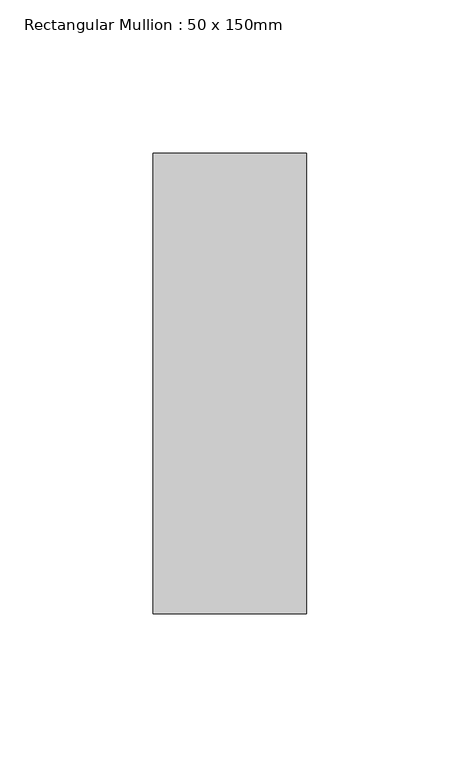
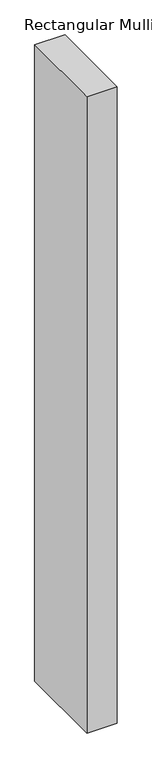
"""IFC4 building model written with IfcOpenShell, lengths in millimetres: member geometry, Rectangular Mullion : 50 x 150mm."""

from ifc_helpers import new_model, si_unit, frame, origin, place, context, project, spatial, polyline, outline, extrude, source, transform, mapped, element, save


def rectangular_mullion_50_x_150mm_4d58d98e(model_context):
    return source(origin(), model_context, "Body", "SweptSolid", [
        extrude(outline(polyline([(25.0, 75.0), (25.0, -75.0), (-25.0, -75.0), (-25.0, 75.0), (25.0, 75.0)])), frame((0.0, 0.0, -1115.0), z_axis=(0.0, 0.0, 1.0), x_axis=(1.0, 0.0, 0.0)), (0.0, 0.0, 1.0), 1115.0),
    ])


if __name__ == "__main__":
    model = new_model("IFC4")
    model_context = context("Model", 3, world=origin())
    ifc_project = project(units=[si_unit("LENGTHUNIT", "METRE", prefix="MILLI")], contexts=[model_context])
    site = spatial("IfcSite", under=ifc_project)
    building = spatial("IfcBuilding", under=site)
    placement = place(None, origin())
    rectangular_mullion_50_x_150mm_shape = rectangular_mullion_50_x_150mm_4d58d98e(model_context)
    element("IfcMember", 1, ObjectType="Rectangular Mullion : 50 x 150mm", at=placement, inside=building, context=model_context, shape_type="MappedRepresentation", body=[
        mapped(rectangular_mullion_50_x_150mm_shape, transform((0.0, 0.0, 0.0), x_axis=(1.0, 0.0, 0.0), y_axis=(0.0, 1.0, 0.0), z_axis=(0.0, 0.0, 1.0))),
    ])
    save(model, "model.ifc")
